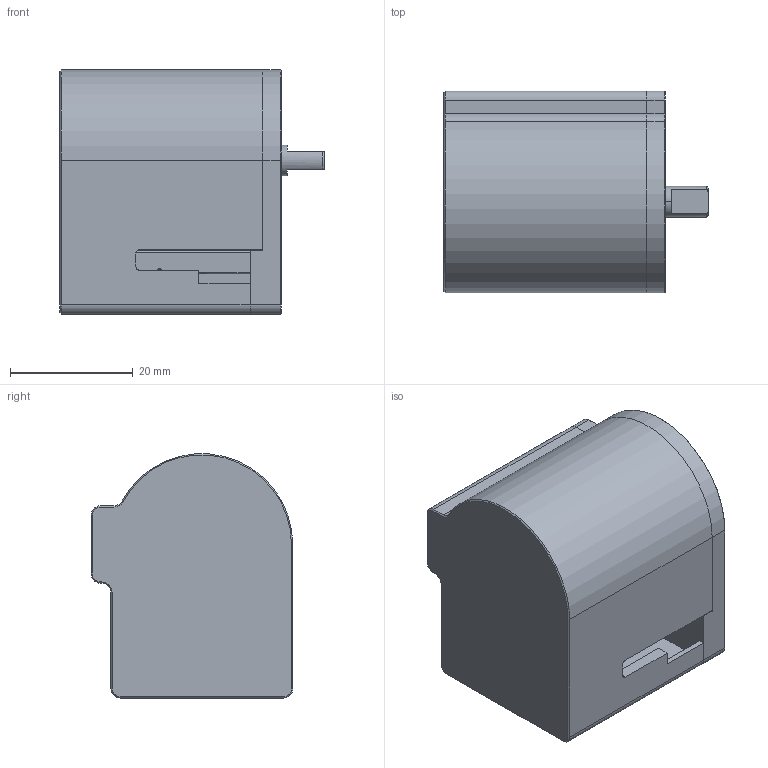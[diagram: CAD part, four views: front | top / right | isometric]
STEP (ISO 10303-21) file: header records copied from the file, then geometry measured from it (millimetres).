
FILE_DESCRIPTION(/* description */ (''),/* implementation_level */ '2;1');
FILE_NAME(/* name */ 'pro_cool.stp',/* time_stamp */ '2024-04-21T08:55:12-07:00',/* author */ (''),/* organization */ (''),/* preprocessor_version */ 'ST-DEVELOPER v19.4',/* originating_system */ 'SIEMENS PLM Software NX2306.8101',/* authorisation */ '');
FILE_SCHEMA (('AUTOMOTIVE_DESIGN { 1 0 10303 214 3 1 1 1 }'));
Length unit declared in the file: millimetre
Products named in the file (1): akha238CD720aup1
Bounding box: 43 x 32.8 x 39.75 mm (x, y, z)
Volume: 12880.7 mm3; surface area: 13557.9 mm2
Topology: 4 solids, 14 shells, 194 faces, 518 edges, 343 vertices
Faces by surface type: plane 87, cone 51, cylinder 46, bspline 8, revolution 2
Full cylindrical faces by diameter (mm): 0.5 x2, 1.6 x2, 2.05 x1, 2.9 x2, 3.454 x2, 3.9 x1, 10.2 x1
Entity records: 6596 total; most frequent: CARTESIAN_POINT 1944, DIRECTION 909, ORIENTED_EDGE 882, EDGE_CURVE 466, VERTEX_POINT 326, AXIS2_PLACEMENT_3D 322, LINE 263, VECTOR 263
